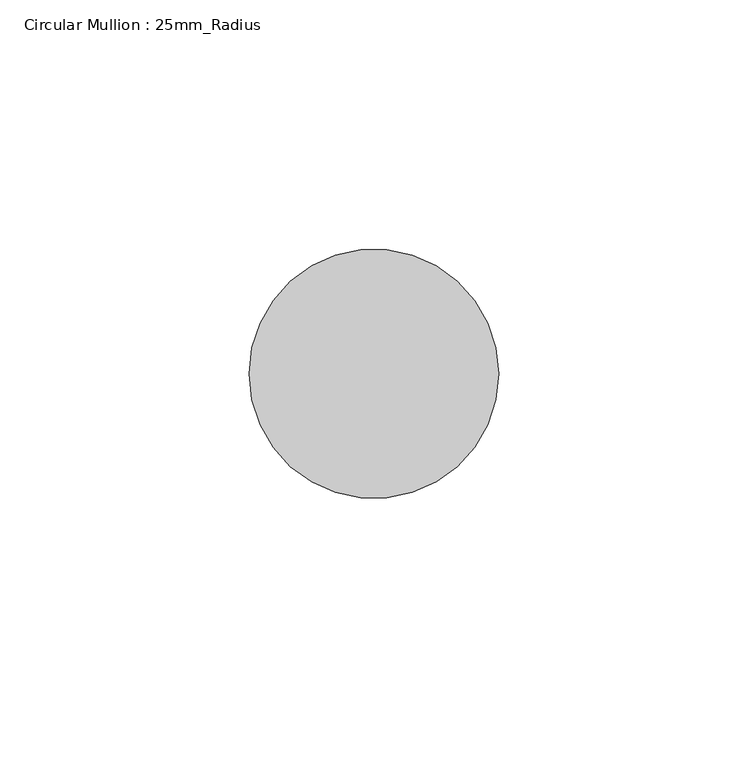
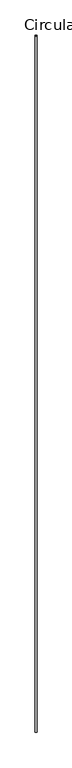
"""IFC4 building model written with IfcOpenShell, lengths in millimetres: member geometry, Circular Mullion : 25mm_Radius."""

from ifc_helpers import new_model, si_unit, point, frame, origin, origin_2d, place, context, project, spatial, circle_curve, trimmed, segment, composite_curve, outline, extrude, source, transform, mapped, element, save


def circular_mullion_25mm_radius_74a68688(model_context):
    return source(origin(), model_context, "Body", "SweptSolid", [
        extrude(outline(composite_curve([segment(trimmed(circle_curve(origin_2d(), 25.0), [point((25.0, 0.0))], [point((-25.0, 0.0))], False, "CARTESIAN"), True, "CONTINUOUS"), segment(trimmed(circle_curve(origin_2d(), 25.0), [point((-25.0, 0.0))], [point((25.0, 0.0))], False, "CARTESIAN"), True, "CONTINUOUS")], self_intersect=False)), frame((0.0, 0.0, -23233.0019827), z_axis=(0.0, 0.0, 1.0), x_axis=(1.0, 0.0, 0.0)), (0.0, 0.0, 1.0), 23233.0019827),
    ])


if __name__ == "__main__":
    model = new_model("IFC4")
    model_context = context("Model", 3, world=origin())
    ifc_project = project(units=[si_unit("LENGTHUNIT", "METRE", prefix="MILLI")], contexts=[model_context])
    site = spatial("IfcSite", under=ifc_project)
    building = spatial("IfcBuilding", under=site)
    placement = place(None, origin())
    circular_mullion_25mm_radius_shape = circular_mullion_25mm_radius_74a68688(model_context)
    element("IfcMember", 1, ObjectType="Circular Mullion : 25mm_Radius", at=placement, inside=building, context=model_context, shape_type="MappedRepresentation", body=[
        mapped(circular_mullion_25mm_radius_shape, transform((0.0, 0.0, 0.0), x_axis=(1.0, 0.0, 0.0), y_axis=(0.0, 1.0, 0.0), z_axis=(0.0, 0.0, 1.0))),
    ])
    save(model, "model.ifc")
